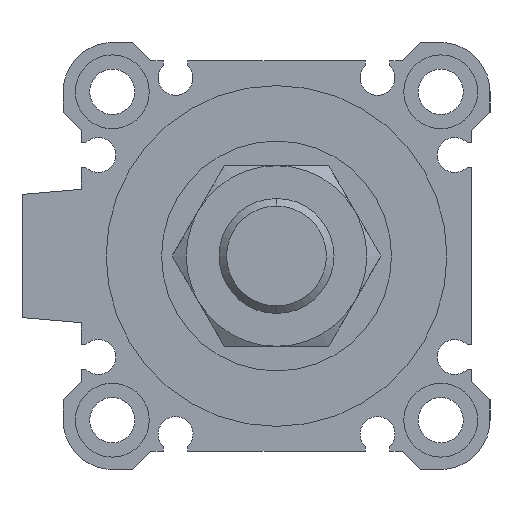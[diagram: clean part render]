
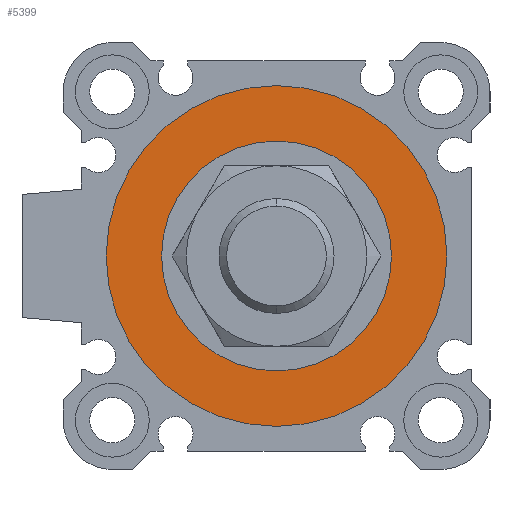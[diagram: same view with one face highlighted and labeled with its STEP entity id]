
A CAD part, left-side view. The second image highlights one B-rep face of the part: STEP entity #5399.
In plain terms, the highlighted planar face has unit normal (-1, 0, 0).
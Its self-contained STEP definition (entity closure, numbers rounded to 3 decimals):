
#109 = CARTESIAN_POINT ( 'NONE',  ( 3.3, 0., 20.75 ) ) ;
#196 = AXIS2_PLACEMENT_3D ( 'NONE', #287, #354, #1971 ) ;
#287 = CARTESIAN_POINT ( 'NONE',  ( 3.3, 0., 0. ) ) ;
#354 = DIRECTION ( 'NONE',  ( 1., 0., 0. ) ) ;
#476 = EDGE_CURVE ( 'NONE', #3881, #2726, #5946, .T. ) ;
#533 = CIRCLE ( 'NONE', #196, 14. ) ;
#758 = CIRCLE ( 'NONE', #4486, 20.75 ) ;
#797 = VERTEX_POINT ( 'NONE', #2768 ) ;
#1214 = EDGE_CURVE ( 'NONE', #2726, #3881, #758, .T. ) ;
#1462 = CARTESIAN_POINT ( 'NONE',  ( 3.3, 0., 0. ) ) ;
#1497 = DIRECTION ( 'NONE',  ( 1., 0., 0. ) ) ;
#1632 = EDGE_LOOP ( 'NONE', ( #4698, #5279 ) ) ;
#1971 = DIRECTION ( 'NONE',  ( 0., 0., -1. ) ) ;
#2286 = DIRECTION ( 'NONE',  ( 1., 0., 0. ) ) ;
#2477 = DIRECTION ( 'NONE',  ( 1., 0., 0. ) ) ;
#2603 = EDGE_CURVE ( 'NONE', #4049, #797, #4016, .T. ) ;
#2631 = AXIS2_PLACEMENT_3D ( 'NONE', #3284, #2286, #5486 ) ;
#2726 = VERTEX_POINT ( 'NONE', #109 ) ;
#2768 = CARTESIAN_POINT ( 'NONE',  ( 3.3, 0., 14. ) ) ;
#3102 = AXIS2_PLACEMENT_3D ( 'NONE', #4186, #2477, #3110 ) ;
#3110 = DIRECTION ( 'NONE',  ( 0., 0., -1. ) ) ;
#3284 = CARTESIAN_POINT ( 'NONE',  ( 3.3, 0., 0. ) ) ;
#3321 = FACE_BOUND ( 'NONE', #5899, .T. ) ;
#3397 = PLANE ( 'NONE',  #2631 ) ;
#3592 = DIRECTION ( 'NONE',  ( 0., 0., -1. ) ) ;
#3737 = EDGE_CURVE ( 'NONE', #797, #4049, #533, .T. ) ;
#3881 = VERTEX_POINT ( 'NONE', #5444 ) ;
#4008 = ORIENTED_EDGE ( 'NONE', *, *, #2603, .T. ) ;
#4016 = CIRCLE ( 'NONE', #3102, 14. ) ;
#4032 = ORIENTED_EDGE ( 'NONE', *, *, #3737, .T. ) ;
#4049 = VERTEX_POINT ( 'NONE', #5729 ) ;
#4127 = DIRECTION ( 'NONE',  ( 0., 0., -1. ) ) ;
#4186 = CARTESIAN_POINT ( 'NONE',  ( 3.3, 0., 0. ) ) ;
#4486 = AXIS2_PLACEMENT_3D ( 'NONE', #6936, #1497, #4127 ) ;
#4698 = ORIENTED_EDGE ( 'NONE', *, *, #1214, .F. ) ;
#4992 = AXIS2_PLACEMENT_3D ( 'NONE', #1462, #5150, #3592 ) ;
#5150 = DIRECTION ( 'NONE',  ( 1., 0., 0. ) ) ;
#5279 = ORIENTED_EDGE ( 'NONE', *, *, #476, .F. ) ;
#5399 = ADVANCED_FACE ( 'NONE', ( #5592, #3321 ), #3397, .F. ) ;
#5444 = CARTESIAN_POINT ( 'NONE',  ( 3.3, 0., -20.75 ) ) ;
#5486 = DIRECTION ( 'NONE',  ( 0., 1., 0. ) ) ;
#5592 = FACE_OUTER_BOUND ( 'NONE', #1632, .T. ) ;
#5729 = CARTESIAN_POINT ( 'NONE',  ( 3.3, 0., -14. ) ) ;
#5899 = EDGE_LOOP ( 'NONE', ( #4032, #4008 ) ) ;
#5946 = CIRCLE ( 'NONE', #4992, 20.75 ) ;
#6936 = CARTESIAN_POINT ( 'NONE',  ( 3.3, 0., 0. ) ) ;
